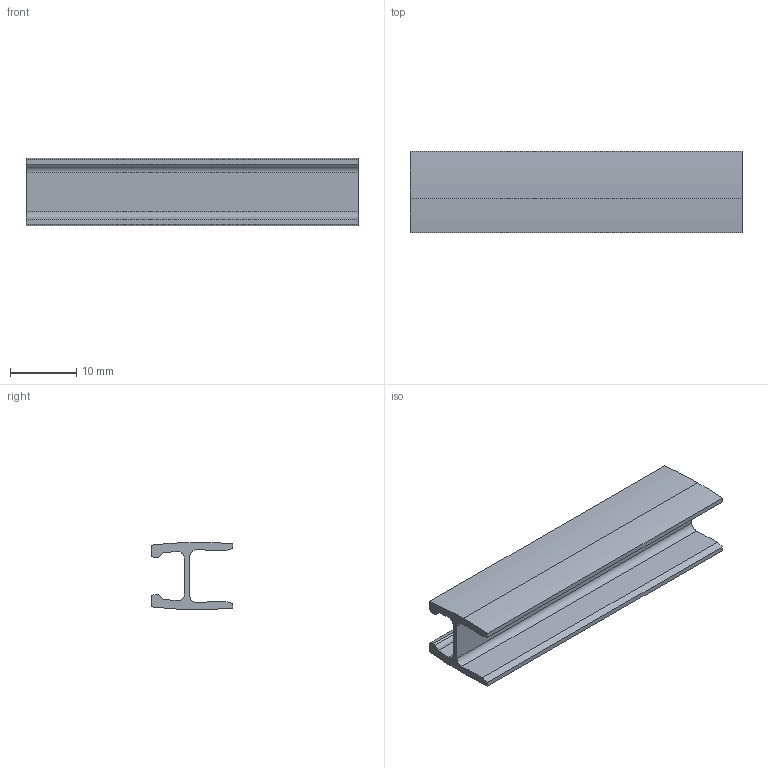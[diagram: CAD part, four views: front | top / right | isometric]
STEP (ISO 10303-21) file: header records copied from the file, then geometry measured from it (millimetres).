
FILE_DESCRIPTION (( 'STEP AP203' ), '1' );
FILE_NAME ('Glasstabilisator Innenblende F8 Crystal KP650369KU.step', '2022-09-22T14:00:20', ( '' ), ( '' ), 'SwSTEP 2.0', 'SolidWorks 2021', '' );
FILE_SCHEMA (( 'CONFIG_CONTROL_DESIGN' ));
Length unit declared in the file: millimetre
Products named in the file (1): Glasstabilisator Innenblende F8 Crystal KP650369KU
Bounding box: 50 x 12.3 x 10.14 mm (x, y, z)
Volume: 1909.4 mm3; surface area: 3411.5 mm2
Topology: 1 solids, 1 shells, 28 faces, 78 edges, 52 vertices
Faces by surface type: cylinder 14, plane 14
Entity records: 987 total; most frequent: DIRECTION 164, CARTESIAN_POINT 159, ORIENTED_EDGE 156, EDGE_CURVE 78, AXIS2_PLACEMENT_3D 57, VERTEX_POINT 52, VECTOR 50, LINE 50
